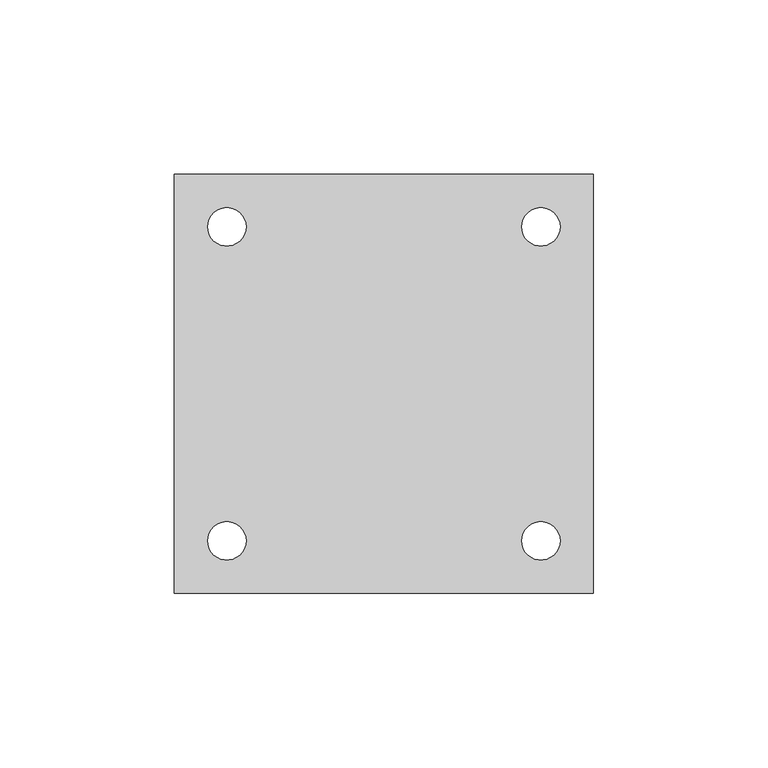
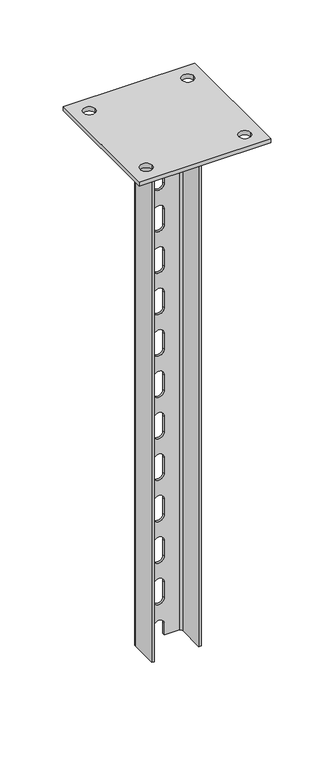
"""IFC4 building model written with IfcOpenShell, lengths in millimetres: proxy geometry, КМ Профиль_Стойка потолочная усиленная PSTU : PSTU500."""

import ifcopenshell
import ifcopenshell.guid

model = None  # the IFC model being written
_history = None  # IfcOwnerHistory: only IFC2X3 demands one
_inside = {}  # id of a spatial element -> (the spatial element, [elements in it])
_under = {}  # id of a project, library or spatial element -> (it, [spatial elements below it])
_declared = {}  # id of a project -> (the project, [libraries it declares])
_typed = {}  # id of a type object -> (the type object, [elements of that type])
_made_of = {}  # id of a material, layer set ... -> (it, [elements and type objects made of it])


def new_model(schema):
    """Start an empty IFC model of exactly this schema.

    Asked for "IFC4X3", IfcOpenShell would pick the latest addendum, in which some entities
    have other attributes; the version numbers below select the first issue.
    IFC2X3 requires an IfcOwnerHistory on every rooted entity: one is made here for all.
    """
    global model, _history
    if schema == "IFC4X3":
        model = ifcopenshell.file(schema_version=(4, 3, 0, 0))
    else:
        model = ifcopenshell.file(schema=schema)
    _inside.clear()
    _under.clear()
    _declared.clear()
    _typed.clear()
    _made_of.clear()
    _history = None
    if model.schema == "IFC2X3":
        org = make("IfcOrganization", Name="unknown")
        user = make(
            "IfcPersonAndOrganization",
            ThePerson=make("IfcPerson", FamilyName="unknown"),
            TheOrganization=org,
        )
        app = make(
            "IfcApplication",
            ApplicationDeveloper=org,
            Version="unknown",
            ApplicationFullName="unknown",
            ApplicationIdentifier="unknown",
        )
        _history = make(
            "IfcOwnerHistory",
            OwningUser=user,
            OwningApplication=app,
            ChangeAction="ADDED",
            CreationDate=0,
        )
    return model


def make(cls, **values):
    """One entity of the class cls with the attributes given. An attribute that is None is left unset."""
    return model.create_entity(
        cls, **{name: value for name, value in values.items() if value is not None}
    )


def rooted(cls, **values):
    """An entity with a GlobalId (a new one), such as an element, a storey or a relation."""
    return make(cls, GlobalId=ifcopenshell.guid.new(), OwnerHistory=_history, **values)


def si_unit(unit_type, name, prefix=None):
    """IfcSIUnit, for example si_unit("LENGTHUNIT", "METRE", prefix="MILLI")."""
    return make("IfcSIUnit", UnitType=unit_type, Prefix=prefix, Name=name)


def assignment(units):
    """IfcUnitAssignment: the units of a project."""
    return None if units is None else make("IfcUnitAssignment", Units=units)


def point(xyz):
    """IfcCartesianPoint."""
    return None if xyz is None else make("IfcCartesianPoint", Coordinates=xyz)


def direction(xyz):
    """IfcDirection."""
    return None if xyz is None else make("IfcDirection", DirectionRatios=xyz)


def frame(location, z_axis=None, x_axis=None):
    """IfcAxis2Placement3D, a coordinate frame: its origin and axes. An axis left out is left unset."""
    return make(
        "IfcAxis2Placement3D",
        Location=point(location),
        Axis=direction(z_axis),
        RefDirection=direction(x_axis),
    )


def frame_2d(location, x_axis=None):
    """IfcAxis2Placement2D, a coordinate frame in the plane: its origin and x axis."""
    return make(
        "IfcAxis2Placement2D", Location=point(location), RefDirection=direction(x_axis)
    )


def origin():
    """The frame at (0, 0, 0) with its axes left unset."""
    return frame((0.0, 0.0, 0.0))


def place(relative_to, where):
    """IfcLocalPlacement: puts the frame where relative to a parent placement (None: the world)."""
    return make(
        "IfcLocalPlacement", PlacementRelTo=relative_to, RelativePlacement=where
    )


def context(
    kind, dimensions, precision=None, world=None, true_north=None, identifier=None
):
    """IfcGeometricRepresentationContext, for example the 3D "Model" context."""
    return make(
        "IfcGeometricRepresentationContext",
        ContextIdentifier=identifier,
        ContextType=kind,
        CoordinateSpaceDimension=dimensions,
        Precision=precision,
        WorldCoordinateSystem=world,
        TrueNorth=true_north,
    )


def project(units=None, contexts=None):
    """IfcProject with its units and contexts."""
    return rooted(
        "IfcProject",
        Name="project",
        RepresentationContexts=contexts,
        UnitsInContext=assignment(units),
    )


def spatial(cls, under=None, at=None, **own):
    """A site, building, storey or space (cls), placed at a placement, below another one or the project."""
    s = rooted(cls, ObjectPlacement=at, **own)
    if under is not None:
        _under.setdefault(under.id(), (under, []))[1].append(s)
    return s


def polyline(points):
    """IfcPolyline through the points."""
    return make("IfcPolyline", Points=[point(p) for p in points])


def circle_curve(where, radius):
    """IfcCircle in the frame where."""
    return make("IfcCircle", Position=where, Radius=radius)


def trimmed(basis, trim1, trim2, sense, master):
    """IfcTrimmedCurve: the piece of a basis curve between two trims."""
    return make(
        "IfcTrimmedCurve",
        BasisCurve=basis,
        Trim1=trim1,
        Trim2=trim2,
        SenseAgreement=sense,
        MasterRepresentation=master,
    )


def segment(curve, same_sense, transition):
    """IfcCompositeCurveSegment."""
    return make(
        "IfcCompositeCurveSegment",
        Transition=transition,
        SameSense=same_sense,
        ParentCurve=curve,
    )


def composite_curve(segments, self_intersect=None):
    """IfcCompositeCurve: segments joined end to end."""
    return make("IfcCompositeCurve", Segments=segments, SelfIntersect=self_intersect)


def outline(outer, holes=None, kind="AREA"):
    """IfcArbitraryClosedProfileDef: a profile drawn as a closed curve; with holes, ...WithVoids."""
    if holes is None:
        return make("IfcArbitraryClosedProfileDef", ProfileType=kind, OuterCurve=outer)
    return make(
        "IfcArbitraryProfileDefWithVoids",
        ProfileType=kind,
        OuterCurve=outer,
        InnerCurves=holes,
    )


def extrude(swept, where, along, depth):
    """IfcExtrudedAreaSolid: the profile swept, set in the frame where, extruded along a direction by depth."""
    return make(
        "IfcExtrudedAreaSolid",
        SweptArea=swept,
        Position=where,
        ExtrudedDirection=direction(along),
        Depth=depth,
    )


def shape(context_of_items, identifier, shape_type, items):
    """IfcShapeRepresentation: the items that make up one representation, for example the "Body"."""
    return make(
        "IfcShapeRepresentation",
        ContextOfItems=context_of_items,
        RepresentationIdentifier=identifier,
        RepresentationType=shape_type,
        Items=items,
    )


def source(mapping_origin, context_of_items, identifier, shape_type, items):
    """IfcRepresentationMap: a shape defined once, which mapped items show again and again."""
    return make(
        "IfcRepresentationMap",
        MappingOrigin=mapping_origin,
        MappedRepresentation=shape(context_of_items, identifier, shape_type, items),
    )


def transform(
    local_origin,
    x_axis=None,
    y_axis=None,
    z_axis=None,
    scale=None,
    scale2=None,
    scale3=None,
    uniform=True,
):
    """IfcCartesianTransformationOperator3D, or its non-uniform kind. x_axis, y_axis, z_axis: its Axis1, 2, 3."""
    if uniform:
        return make(
            "IfcCartesianTransformationOperator3D",
            Axis1=direction(x_axis),
            Axis2=direction(y_axis),
            LocalOrigin=point(local_origin),
            Scale=scale,
            Axis3=direction(z_axis),
        )
    return make(
        "IfcCartesianTransformationOperator3DnonUniform",
        Axis1=direction(x_axis),
        Axis2=direction(y_axis),
        LocalOrigin=point(local_origin),
        Scale=scale,
        Axis3=direction(z_axis),
        Scale2=scale2,
        Scale3=scale3,
    )


def mapped(mapping_source, mapping_target):
    """IfcMappedItem: shows the shape of a source again, moved by a transform."""
    return make(
        "IfcMappedItem", MappingSource=mapping_source, MappingTarget=mapping_target
    )


def made_of(thing, what):
    """Note that an element or type object is made of a material, layer set ...; save() writes the relation."""
    if what is not None:
        _made_of.setdefault(what.id(), (what, []))[1].append(thing)
    return thing


def element(
    cls,
    number,
    at=None,
    inside=None,
    cuts=None,
    type_object=None,
    material=None,
    context=None,
    identifier="Body",
    shape_type=None,
    held_by="IfcProductDefinitionShape",
    body=None,
    shapes=None,
    **own,
):
    """One element of the class cls, such as IfcWall. Its Tag is "e" and its number.

    at: its placement. inside: the storey or other place that contains it. cuts: it is an
    opening in that element (IfcRelVoidsElement). A single representation is given by context,
    identifier, shape_type and body (its items); several are given by shapes. held_by: the class
    of the entity that holds the representations. save() writes the other relations.
    """
    e = rooted(cls, Tag="e%d" % number, ObjectPlacement=at, **own)
    if body is not None:
        shapes = [shape(context, identifier, shape_type, body)]
    if shapes is not None:
        e.Representation = make(held_by, Representations=shapes)
    if inside is not None:
        _inside.setdefault(inside.id(), (inside, []))[1].append(e)
    if cuts is not None:
        rooted(
            "IfcRelVoidsElement", RelatingBuildingElement=cuts, RelatedOpeningElement=e
        )
    if type_object is not None:
        _typed.setdefault(type_object.id(), (type_object, []))[1].append(e)
    return made_of(e, material)


def aggregate(whole, parts):
    """IfcRelAggregates: a whole, such as a stair, and the parts it consists of."""
    return rooted("IfcRelAggregates", RelatingObject=whole, RelatedObjects=parts)


def save(model, path):
    """Write the relations noted so far, then the file.

    IfcRelAggregates (storeys below a building ...), IfcRelContainedInSpatialStructure (elements
    in a storey), IfcRelDefinesByType, IfcRelAssociatesMaterial and IfcRelDeclares: one each for
    every whole, place, type object, material and project.
    """
    for whole, parts in _under.values():
        aggregate(whole, parts)
    for where, things in _inside.values():
        rooted(
            "IfcRelContainedInSpatialStructure",
            RelatedElements=things,
            RelatingStructure=where,
        )
    for kind, things in _typed.values():
        rooted("IfcRelDefinesByType", RelatedObjects=things, RelatingType=kind)
    for what, things in _made_of.values():
        rooted("IfcRelAssociatesMaterial", RelatedObjects=things, RelatingMaterial=what)
    for by, libraries in _declared.values():
        rooted("IfcRelDeclares", RelatingContext=by, RelatedDefinitions=libraries)
    model.write(path)


def plane_surface(at):
    """IfcPlane: the flat surface through the origin of the frame at, square to its z axis."""
    return make("IfcPlane", Position=at)


def cylinder_surface(at, radius):
    """IfcCylindricalSurface: all points at the distance radius from the z axis of the frame at."""
    return make("IfcCylindricalSurface", Position=at, Radius=radius)


def revolved_surface(curve, axis_point, axis_direction):
    """IfcSurfaceOfRevolution: the curve turned about the line through axis_point along axis_direction."""
    return make(
        "IfcSurfaceOfRevolution",
        SweptCurve=make("IfcArbitraryOpenProfileDef", ProfileType="CURVE", Curve=curve),
        AxisPosition=make("IfcAxis1Placement", Location=point(axis_point), Axis=direction(axis_direction)),
    )


def advanced_brep(points, edges, surfaces, faces):
    """IfcAdvancedBrep: a solid bounded by faces that lie on surfaces and meet in shared edges.

    An edge is (start, end): straight between two places in points (the first is 0);
    or (start, end, curve); or (start, end, curve, False) where it runs against its curve.
    A face is (place in surfaces, loops), or (place, loops, False) where it looks against
    its surface's normal. A loop lists edges by number (the first is 1), with a minus sign
    where the edge is run from its end to its start. The first loop is the outer one.
    """
    corners = [point(p) for p in points]
    vertices = [make("IfcVertexPoint", VertexGeometry=c) for c in corners]
    made = []
    for start, end, *more in edges:
        made.append(
            make(
                "IfcEdgeCurve",
                EdgeStart=vertices[start],
                EdgeEnd=vertices[end],
                EdgeGeometry=more[0] if more else make("IfcPolyline", Points=[corners[start], corners[end]]),
                SameSense=more[1] if len(more) > 1 else True,
            )
        )
    hull = []
    for where, loops, *sense in faces:
        bounds = []
        for j, loop in enumerate(loops):
            ring = [make("IfcOrientedEdge", EdgeElement=made[abs(k) - 1], Orientation=k > 0) for k in loop]
            bounds.append(
                make(
                    "IfcFaceOuterBound" if j == 0 else "IfcFaceBound",
                    Bound=make("IfcEdgeLoop", EdgeList=ring),
                    Orientation=True,
                )
            )
        hull.append(make("IfcAdvancedFace", Bounds=bounds, FaceSurface=surfaces[where], SameSense=sense[0] if sense else True))
    return make("IfcAdvancedBrep", Outer=make("IfcClosedShell", CfsFaces=hull))


def generic_models_c162aa8f(model_context):
    return source(origin(), model_context, "Body", "SolidModel", [
        advanced_brep(
        [(22.5, -15.0, -4.0), (22.5, 11.0, -4.0), (18.5, 15.0, -4.0), (-18.5, 15.0, -4.0), (-22.5, 11.0, -4.0), (-22.5, -15.0, -4.0), (-20.5, -15.0, -4.0), (-20.5, 11.0, -4.0), (-18.5, 13.0, -4.0), (18.5, 13.0, -4.0), (20.5, 11.0, -4.0), (20.5, -15.0, -4.0), (22.5, 11.0, -504.0), (22.5, -15.0, -504.0), (20.5, -15.0, -504.0), (20.5, 11.0, -504.0), (18.5, 13.0, -504.0), (5.0, 13.0, -504.0), (5.0, 15.0, -504.0), (18.5, 15.0, -504.0), (-22.5, 11.0, -504.0), (-18.5, 15.0, -504.0), (-5.0, 15.0, -504.0), (-5.0, 13.0, -504.0), (-18.5, 13.0, -504.0), (-20.5, 11.0, -504.0), (-20.5, -15.0, -504.0), (-22.5, -15.0, -504.0), (5.0, 15.0, -493.0), (-5.0, 15.0, -493.0), (-5.0, 15.0, -53.0), (-5.0, 15.0, -68.0), (5.0, 15.0, -68.0), (5.0, 15.0, -53.0), (-5.0, 15.0, -93.0), (-5.0, 15.0, -108.0), (5.0, 15.0, -108.0), (5.0, 15.0, -93.0), (-5.0, 15.0, -133.0), (-5.0, 15.0, -148.0), (5.0, 15.0, -148.0), (5.0, 15.0, -133.0), (-5.0, 15.0, -173.0), (-5.0, 15.0, -188.0), (5.0, 15.0, -188.0), (5.0, 15.0, -173.0), (-5.0, 15.0, -213.0), (-5.0, 15.0, -228.0), (5.0, 15.0, -228.0), (5.0, 15.0, -213.0), (-5.0, 15.0, -253.0), (-5.0, 15.0, -268.0), (5.0, 15.0, -268.0), (5.0, 15.0, -253.0), (-5.0, 15.0, -293.0), (-5.0, 15.0, -308.0), (5.0, 15.0, -308.0), (5.0, 15.0, -293.0), (-5.0, 15.0, -333.0), (-5.0, 15.0, -348.0), (5.0, 15.0, -348.0), (5.0, 15.0, -333.0), (-5.0, 15.0, -373.0), (-5.0, 15.0, -388.0), (5.0, 15.0, -388.0), (5.0, 15.0, -373.0), (-5.0, 15.0, -413.0), (-5.0, 15.0, -428.0), (5.0, 15.0, -428.0), (5.0, 15.0, -413.0), (-5.0, 15.0, -453.0), (-5.0, 15.0, -468.0), (5.0, 15.0, -468.0), (5.0, 15.0, -453.0), (-5.0, 15.0, -13.0), (-5.0, 15.0, -28.0), (5.0, 15.0, -28.0), (5.0, 15.0, -13.0), (-5.0, 13.0, -493.0), (5.0, 13.0, -493.0), (-5.0, 13.0, -68.0), (-5.0, 13.0, -53.0), (5.0, 13.0, -53.0), (5.0, 13.0, -68.0), (-5.0, 13.0, -108.0), (-5.0, 13.0, -93.0), (5.0, 13.0, -93.0), (5.0, 13.0, -108.0), (-5.0, 13.0, -148.0), (-5.0, 13.0, -133.0), (5.0, 13.0, -133.0), (5.0, 13.0, -148.0), (-5.0, 13.0, -188.0), (-5.0, 13.0, -173.0), (5.0, 13.0, -173.0), (5.0, 13.0, -188.0), (-5.0, 13.0, -228.0), (-5.0, 13.0, -213.0), (5.0, 13.0, -213.0), (5.0, 13.0, -228.0), (-5.0, 13.0, -268.0), (-5.0, 13.0, -253.0), (5.0, 13.0, -253.0), (5.0, 13.0, -268.0), (-5.0, 13.0, -308.0), (-5.0, 13.0, -293.0), (5.0, 13.0, -293.0), (5.0, 13.0, -308.0), (-5.0, 13.0, -348.0), (-5.0, 13.0, -333.0), (5.0, 13.0, -333.0), (5.0, 13.0, -348.0), (-5.0, 13.0, -388.0), (-5.0, 13.0, -373.0), (5.0, 13.0, -373.0), (5.0, 13.0, -388.0), (-5.0, 13.0, -428.0), (-5.0, 13.0, -413.0), (5.0, 13.0, -413.0), (5.0, 13.0, -428.0), (-5.0, 13.0, -468.0), (-5.0, 13.0, -453.0), (5.0, 13.0, -453.0), (5.0, 13.0, -468.0), (-5.0, 13.0, -28.0), (-5.0, 13.0, -13.0), (5.0, 13.0, -13.0), (5.0, 13.0, -28.0)],
        [
            (0, 1),
            (1, 2, circle_curve(frame((18.5, 11.0, -4.0), z_axis=(0.0, 0.0, 1.0), x_axis=(1.0, 0.0, 0.0)), 4.0)),
            (2, 3),
            (3, 4, circle_curve(frame((-18.5, 11.0, -4.0), z_axis=(0.0, 0.0, 1.0), x_axis=(1.0, 0.0, 0.0)), 4.0)),
            (4, 5),
            (5, 6),
            (6, 7),
            (7, 8, circle_curve(frame((-18.5, 11.0, -4.0), z_axis=(0.0, 0.0, -1.0), x_axis=(1.0, 0.0, 0.0)), 2.0)),
            (8, 9),
            (9, 10, circle_curve(frame((18.5, 11.0, -4.0), z_axis=(0.0, 0.0, -1.0), x_axis=(1.0, 0.0, 0.0)), 2.0)),
            (10, 11),
            (11, 0),
            (12, 13),
            (13, 14),
            (14, 15),
            (15, 16, circle_curve(frame((18.5, 11.0, -504.0), z_axis=(0.0, 0.0, 1.0), x_axis=(1.0, 0.0, 0.0)), 2.0)),
            (16, 17),
            (17, 18),
            (18, 19),
            (19, 12, circle_curve(frame((18.5, 11.0, -504.0), z_axis=(0.0, 0.0, -1.0), x_axis=(1.0, 0.0, 0.0)), 4.0)),
            (20, 21, circle_curve(frame((-18.5, 11.0, -504.0), z_axis=(0.0, 0.0, -1.0), x_axis=(1.0, 0.0, 0.0)), 4.0)),
            (21, 22),
            (22, 23),
            (23, 24),
            (24, 25, circle_curve(frame((-18.5, 11.0, -504.0), z_axis=(0.0, 0.0, 1.0), x_axis=(1.0, 0.0, 0.0)), 2.0)),
            (25, 26),
            (26, 27),
            (27, 20),
            (0, 13),
            (12, 1),
            (19, 2),
            (18, 28),
            (28, 29, circle_curve(frame((0.0, 15.0, -493.0), z_axis=(0.0, -1.0, 0.0), x_axis=(0.0, 0.0, -1.0)), 5.0)),
            (29, 22),
            (21, 3),
            (30, 31),
            (31, 32, circle_curve(frame((0.0, 15.0, -68.0), z_axis=(0.0, -1.0, 0.0), x_axis=(0.0, 0.0, -1.0)), 5.0)),
            (32, 33),
            (33, 30, circle_curve(frame((0.0, 15.0, -53.0), z_axis=(0.0, -1.0, 0.0), x_axis=(0.0, 0.0, -1.0)), 5.0)),
            (34, 35),
            (35, 36, circle_curve(frame((0.0, 15.0, -108.0), z_axis=(0.0, -1.0, 0.0), x_axis=(0.0, 0.0, -1.0)), 5.0)),
            (36, 37),
            (37, 34, circle_curve(frame((0.0, 15.0, -93.0), z_axis=(0.0, -1.0, 0.0), x_axis=(0.0, 0.0, -1.0)), 5.0)),
            (38, 39),
            (39, 40, circle_curve(frame((0.0, 15.0, -148.0), z_axis=(0.0, -1.0, 0.0), x_axis=(0.0, 0.0, -1.0)), 5.0)),
            (40, 41),
            (41, 38, circle_curve(frame((0.0, 15.0, -133.0), z_axis=(0.0, -1.0, 0.0), x_axis=(0.0, 0.0, -1.0)), 5.0)),
            (42, 43),
            (43, 44, circle_curve(frame((0.0, 15.0, -188.0), z_axis=(0.0, -1.0, 0.0), x_axis=(0.0, 0.0, -1.0)), 5.0)),
            (44, 45),
            (45, 42, circle_curve(frame((0.0, 15.0, -173.0), z_axis=(0.0, -1.0, 0.0), x_axis=(0.0, 0.0, -1.0)), 5.0)),
            (46, 47),
            (47, 48, circle_curve(frame((0.0, 15.0, -228.0), z_axis=(0.0, -1.0, 0.0), x_axis=(0.0, 0.0, -1.0)), 5.0)),
            (48, 49),
            (49, 46, circle_curve(frame((0.0, 15.0, -213.0), z_axis=(0.0, -1.0, 0.0), x_axis=(0.0, 0.0, -1.0)), 5.0)),
            (50, 51),
            (51, 52, circle_curve(frame((0.0, 15.0, -268.0), z_axis=(0.0, -1.0, 0.0), x_axis=(0.0, 0.0, -1.0)), 5.0)),
            (52, 53),
            (53, 50, circle_curve(frame((0.0, 15.0, -253.0), z_axis=(0.0, -1.0, 0.0), x_axis=(0.0, 0.0, -1.0)), 5.0)),
            (54, 55),
            (55, 56, circle_curve(frame((0.0, 15.0, -308.0), z_axis=(0.0, -1.0, 0.0), x_axis=(0.0, 0.0, -1.0)), 5.0)),
            (56, 57),
            (57, 54, circle_curve(frame((0.0, 15.0, -293.0), z_axis=(0.0, -1.0, 0.0), x_axis=(0.0, 0.0, -1.0)), 5.0)),
            (58, 59),
            (59, 60, circle_curve(frame((0.0, 15.0, -348.0), z_axis=(0.0, -1.0, 0.0), x_axis=(0.0, 0.0, -1.0)), 5.0)),
            (60, 61),
            (61, 58, circle_curve(frame((0.0, 15.0, -333.0), z_axis=(0.0, -1.0, 0.0), x_axis=(0.0, 0.0, -1.0)), 5.0)),
            (62, 63),
            (63, 64, circle_curve(frame((0.0, 15.0, -388.0), z_axis=(0.0, -1.0, 0.0), x_axis=(0.0, 0.0, -1.0)), 5.0)),
            (64, 65),
            (65, 62, circle_curve(frame((0.0, 15.0, -373.0), z_axis=(0.0, -1.0, 0.0), x_axis=(0.0, 0.0, -1.0)), 5.0)),
            (66, 67),
            (67, 68, circle_curve(frame((0.0, 15.0, -428.0), z_axis=(0.0, -1.0, 0.0), x_axis=(0.0, 0.0, -1.0)), 5.0)),
            (68, 69),
            (69, 66, circle_curve(frame((0.0, 15.0, -413.0), z_axis=(0.0, -1.0, 0.0), x_axis=(0.0, 0.0, -1.0)), 5.0)),
            (70, 71),
            (71, 72, circle_curve(frame((0.0, 15.0, -468.0), z_axis=(0.0, -1.0, 0.0), x_axis=(0.0, 0.0, -1.0)), 5.0)),
            (72, 73),
            (73, 70, circle_curve(frame((0.0, 15.0, -453.0), z_axis=(0.0, -1.0, 0.0), x_axis=(0.0, 0.0, -1.0)), 5.0)),
            (74, 75),
            (75, 76, circle_curve(frame((0.0, 15.0, -28.0), z_axis=(0.0, -1.0, 0.0), x_axis=(0.0, 0.0, -1.0)), 5.0)),
            (76, 77),
            (77, 74, circle_curve(frame((0.0, 15.0, -13.0), z_axis=(0.0, -1.0, 0.0), x_axis=(0.0, 0.0, -1.0)), 5.0)),
            (20, 4),
            (27, 5),
            (26, 6),
            (25, 7),
            (24, 8),
            (23, 78),
            (78, 79, circle_curve(frame((0.0, 13.0, -493.0), z_axis=(0.0, 1.0, 0.0), x_axis=(0.0, 0.0, -1.0)), 5.0)),
            (79, 17),
            (16, 9),
            (80, 81),
            (81, 82, circle_curve(frame((0.0, 13.0, -53.0), z_axis=(0.0, 1.0, 0.0), x_axis=(0.0, 0.0, -1.0)), 5.0)),
            (82, 83),
            (83, 80, circle_curve(frame((0.0, 13.0, -68.0), z_axis=(0.0, 1.0, 0.0), x_axis=(0.0, 0.0, -1.0)), 5.0)),
            (84, 85),
            (85, 86, circle_curve(frame((0.0, 13.0, -93.0), z_axis=(0.0, 1.0, 0.0), x_axis=(0.0, 0.0, -1.0)), 5.0)),
            (86, 87),
            (87, 84, circle_curve(frame((0.0, 13.0, -108.0), z_axis=(0.0, 1.0, 0.0), x_axis=(0.0, 0.0, -1.0)), 5.0)),
            (88, 89),
            (89, 90, circle_curve(frame((0.0, 13.0, -133.0), z_axis=(0.0, 1.0, 0.0), x_axis=(0.0, 0.0, -1.0)), 5.0)),
            (90, 91),
            (91, 88, circle_curve(frame((0.0, 13.0, -148.0), z_axis=(0.0, 1.0, 0.0), x_axis=(0.0, 0.0, -1.0)), 5.0)),
            (92, 93),
            (93, 94, circle_curve(frame((0.0, 13.0, -173.0), z_axis=(0.0, 1.0, 0.0), x_axis=(0.0, 0.0, -1.0)), 5.0)),
            (94, 95),
            (95, 92, circle_curve(frame((0.0, 13.0, -188.0), z_axis=(0.0, 1.0, 0.0), x_axis=(0.0, 0.0, -1.0)), 5.0)),
            (96, 97),
            (97, 98, circle_curve(frame((0.0, 13.0, -213.0), z_axis=(0.0, 1.0, 0.0), x_axis=(0.0, 0.0, -1.0)), 5.0)),
            (98, 99),
            (99, 96, circle_curve(frame((0.0, 13.0, -228.0), z_axis=(0.0, 1.0, 0.0), x_axis=(0.0, 0.0, -1.0)), 5.0)),
            (100, 101),
            (101, 102, circle_curve(frame((0.0, 13.0, -253.0), z_axis=(0.0, 1.0, 0.0), x_axis=(0.0, 0.0, -1.0)), 5.0)),
            (102, 103),
            (103, 100, circle_curve(frame((0.0, 13.0, -268.0), z_axis=(0.0, 1.0, 0.0), x_axis=(0.0, 0.0, -1.0)), 5.0)),
            (104, 105),
            (105, 106, circle_curve(frame((0.0, 13.0, -293.0), z_axis=(0.0, 1.0, 0.0), x_axis=(0.0, 0.0, -1.0)), 5.0)),
            (106, 107),
            (107, 104, circle_curve(frame((0.0, 13.0, -308.0), z_axis=(0.0, 1.0, 0.0), x_axis=(0.0, 0.0, -1.0)), 5.0)),
            (108, 109),
            (109, 110, circle_curve(frame((0.0, 13.0, -333.0), z_axis=(0.0, 1.0, 0.0), x_axis=(0.0, 0.0, -1.0)), 5.0)),
            (110, 111),
            (111, 108, circle_curve(frame((0.0, 13.0, -348.0), z_axis=(0.0, 1.0, 0.0), x_axis=(0.0, 0.0, -1.0)), 5.0)),
            (112, 113),
            (113, 114, circle_curve(frame((0.0, 13.0, -373.0), z_axis=(0.0, 1.0, 0.0), x_axis=(0.0, 0.0, -1.0)), 5.0)),
            (114, 115),
            (115, 112, circle_curve(frame((0.0, 13.0, -388.0), z_axis=(0.0, 1.0, 0.0), x_axis=(0.0, 0.0, -1.0)), 5.0)),
            (116, 117),
            (117, 118, circle_curve(frame((0.0, 13.0, -413.0), z_axis=(0.0, 1.0, 0.0), x_axis=(0.0, 0.0, -1.0)), 5.0)),
            (118, 119),
            (119, 116, circle_curve(frame((0.0, 13.0, -428.0), z_axis=(0.0, 1.0, 0.0), x_axis=(0.0, 0.0, -1.0)), 5.0)),
            (120, 121),
            (121, 122, circle_curve(frame((0.0, 13.0, -453.0), z_axis=(0.0, 1.0, 0.0), x_axis=(0.0, 0.0, -1.0)), 5.0)),
            (122, 123),
            (123, 120, circle_curve(frame((0.0, 13.0, -468.0), z_axis=(0.0, 1.0, 0.0), x_axis=(0.0, 0.0, -1.0)), 5.0)),
            (124, 125),
            (125, 126, circle_curve(frame((0.0, 13.0, -13.0), z_axis=(0.0, 1.0, 0.0), x_axis=(0.0, 0.0, -1.0)), 5.0)),
            (126, 127),
            (127, 124, circle_curve(frame((0.0, 13.0, -28.0), z_axis=(0.0, 1.0, 0.0), x_axis=(0.0, 0.0, -1.0)), 5.0)),
            (15, 10),
            (14, 11),
            (30, 81),
            (80, 31),
            (33, 82),
            (32, 83),
            (34, 85),
            (84, 35),
            (37, 86),
            (36, 87),
            (38, 89),
            (88, 39),
            (41, 90),
            (40, 91),
            (42, 93),
            (92, 43),
            (45, 94),
            (44, 95),
            (46, 97),
            (96, 47),
            (49, 98),
            (48, 99),
            (50, 101),
            (100, 51),
            (53, 102),
            (52, 103),
            (54, 105),
            (104, 55),
            (57, 106),
            (56, 107),
            (58, 109),
            (108, 59),
            (61, 110),
            (60, 111),
            (62, 113),
            (112, 63),
            (65, 114),
            (64, 115),
            (66, 117),
            (116, 67),
            (69, 118),
            (68, 119),
            (70, 121),
            (120, 71),
            (73, 122),
            (72, 123),
            (29, 78),
            (28, 79),
            (74, 125),
            (124, 75),
            (77, 126),
            (76, 127),
        ],
        [
            plane_surface(frame((22.5, 11.0, -4.0), z_axis=(0.0, 0.0, 1.0), x_axis=(0.0, 1.0, 0.0))),
            plane_surface(frame((22.5, 11.0, -504.0), z_axis=(0.0, 0.0, -1.0), x_axis=(0.0, -1.0, 0.0))),
            plane_surface(frame((22.5, -15.0, -4.0), z_axis=(1.0, 0.0, 0.0), x_axis=(0.0, 0.0, -1.0))),
            cylinder_surface(frame((18.5, 11.0, -504.0), z_axis=(0.0, 0.0, 1.0), x_axis=(1.0, 0.0, 0.0)), 4.0),
            plane_surface(frame((18.5, 15.0, -4.0), z_axis=(0.0, 1.0, 0.0), x_axis=(0.0, 0.0, -1.0))),
            cylinder_surface(frame((-18.5, 11.0, -504.0), z_axis=(0.0, 0.0, 1.0), x_axis=(1.0, 0.0, 0.0)), 4.0),
            plane_surface(frame((-22.5, 11.0, -4.0), z_axis=(-1.0, 0.0, 0.0), x_axis=(0.0, 0.0, -1.0))),
            plane_surface(frame((-22.5, -15.0, -4.0), z_axis=(0.0, -1.0, 0.0), x_axis=(0.0, 0.0, -1.0))),
            plane_surface(frame((-20.5, -15.0, -4.0), z_axis=(1.0, 0.0, 0.0), x_axis=(0.0, 0.0, -1.0))),
            revolved_surface(polyline([(-16.5, 11.0, -504.0), (-16.5, 11.0, -4.0)]), (-18.5, 11.0, -504.0), (0.0, 0.0, -1.0)),
            plane_surface(frame((-18.5, 13.0, -4.0), z_axis=(0.0, -1.0, 0.0), x_axis=(0.0, 0.0, -1.0))),
            revolved_surface(polyline([(20.5, 11.0, -504.0), (20.5, 11.0, -4.0)]), (18.5, 11.0, -504.0), (0.0, 0.0, -1.0)),
            plane_surface(frame((20.5, 11.0, -4.0), z_axis=(-1.0, 0.0, 0.0), x_axis=(0.0, 0.0, -1.0))),
            plane_surface(frame((20.5, -15.0, -4.0), z_axis=(0.0, -1.0, 0.0), x_axis=(0.0, 0.0, -1.0))),
            plane_surface(frame((-5.0, 15.0, -68.0), z_axis=(1.0, 0.0, 0.0), x_axis=(0.0, -1.0, 0.0))),
            revolved_surface(polyline([(0.0, 15.0, -58.0), (0.0, 13.0, -58.0)]), (0.0, 13.0, -53.0), (0.0, 1.0, 0.0)),
            plane_surface(frame((5.0, 15.0, -53.0), z_axis=(-1.0, 0.0, 0.0), x_axis=(0.0, -1.0, 0.0))),
            revolved_surface(polyline([(0.0, 15.0, -73.0), (0.0, 13.0, -73.0)]), (0.0, 13.0, -68.0), (0.0, 1.0, 0.0)),
            plane_surface(frame((-5.0, 15.0, -108.0), z_axis=(1.0, 0.0, 0.0), x_axis=(0.0, -1.0, 0.0))),
            revolved_surface(polyline([(0.0, 15.0, -98.0), (0.0, 13.0, -98.0)]), (0.0, 13.0, -93.0), (0.0, 1.0, 0.0)),
            plane_surface(frame((5.0, 15.0, -93.0), z_axis=(-1.0, 0.0, 0.0), x_axis=(0.0, -1.0, 0.0))),
            revolved_surface(polyline([(0.0, 15.0, -113.0), (0.0, 13.0, -113.0)]), (0.0, 13.0, -108.0), (0.0, 1.0, 0.0)),
            plane_surface(frame((-5.0, 15.0, -148.0), z_axis=(1.0, 0.0, 0.0), x_axis=(0.0, -1.0, 0.0))),
            revolved_surface(polyline([(0.0, 15.0, -138.0), (0.0, 13.0, -138.0)]), (0.0, 13.0, -133.0), (0.0, 1.0, 0.0)),
            plane_surface(frame((5.0, 15.0, -133.0), z_axis=(-1.0, 0.0, 0.0), x_axis=(0.0, -1.0, 0.0))),
            revolved_surface(polyline([(0.0, 15.0, -153.0), (0.0, 13.0, -153.0)]), (0.0, 13.0, -148.0), (0.0, 1.0, 0.0)),
            plane_surface(frame((-5.0, 15.0, -188.0), z_axis=(1.0, 0.0, 0.0), x_axis=(0.0, -1.0, 0.0))),
            revolved_surface(polyline([(0.0, 15.0, -178.0), (0.0, 13.0, -178.0)]), (0.0, 13.0, -173.0), (0.0, 1.0, 0.0)),
            plane_surface(frame((5.0, 15.0, -173.0), z_axis=(-1.0, 0.0, 0.0), x_axis=(0.0, -1.0, 0.0))),
            revolved_surface(polyline([(0.0, 15.0, -193.0), (0.0, 13.0, -193.0)]), (0.0, 13.0, -188.0), (0.0, 1.0, 0.0)),
            plane_surface(frame((-5.0, 15.0, -228.0), z_axis=(1.0, 0.0, 0.0), x_axis=(0.0, -1.0, 0.0))),
            revolved_surface(polyline([(0.0, 15.0, -218.0), (0.0, 13.0, -218.0)]), (0.0, 13.0, -213.0), (0.0, 1.0, 0.0)),
            plane_surface(frame((5.0, 15.0, -213.0), z_axis=(-1.0, 0.0, 0.0), x_axis=(0.0, -1.0, 0.0))),
            revolved_surface(polyline([(0.0, 15.0, -233.0), (0.0, 13.0, -233.0)]), (0.0, 13.0, -228.0), (0.0, 1.0, 0.0)),
            plane_surface(frame((-5.0, 15.0, -268.0), z_axis=(1.0, 0.0, 0.0), x_axis=(0.0, -1.0, 0.0))),
            revolved_surface(polyline([(0.0, 15.0, -258.0), (0.0, 13.0, -258.0)]), (0.0, 13.0, -253.0), (0.0, 1.0, 0.0)),
            plane_surface(frame((5.0, 15.0, -253.0), z_axis=(-1.0, 0.0, 0.0), x_axis=(0.0, -1.0, 0.0))),
            revolved_surface(polyline([(0.0, 15.0, -273.0), (0.0, 13.0, -273.0)]), (0.0, 13.0, -268.0), (0.0, 1.0, 0.0)),
            plane_surface(frame((-5.0, 15.0, -308.0), z_axis=(1.0, 0.0, 0.0), x_axis=(0.0, -1.0, 0.0))),
            revolved_surface(polyline([(0.0, 15.0, -298.0), (0.0, 13.0, -298.0)]), (0.0, 13.0, -293.0), (0.0, 1.0, 0.0)),
            plane_surface(frame((5.0, 15.0, -293.0), z_axis=(-1.0, 0.0, 0.0), x_axis=(0.0, -1.0, 0.0))),
            revolved_surface(polyline([(0.0, 15.0, -313.0), (0.0, 13.0, -313.0)]), (0.0, 13.0, -308.0), (0.0, 1.0, 0.0)),
            plane_surface(frame((-5.0, 15.0, -348.0), z_axis=(1.0, 0.0, 0.0), x_axis=(0.0, -1.0, 0.0))),
            revolved_surface(polyline([(0.0, 15.0, -338.0), (0.0, 13.0, -338.0)]), (0.0, 13.0, -333.0), (0.0, 1.0, 0.0)),
            plane_surface(frame((5.0, 15.0, -333.0), z_axis=(-1.0, 0.0, 0.0), x_axis=(0.0, -1.0, 0.0))),
            revolved_surface(polyline([(0.0, 15.0, -353.0), (0.0, 13.0, -353.0)]), (0.0, 13.0, -348.0), (0.0, 1.0, 0.0)),
            plane_surface(frame((-5.0, 15.0, -388.0), z_axis=(1.0, 0.0, 0.0), x_axis=(0.0, -1.0, 0.0))),
            revolved_surface(polyline([(0.0, 15.0, -378.0), (0.0, 13.0, -378.0)]), (0.0, 13.0, -373.0), (0.0, 1.0, 0.0)),
            plane_surface(frame((5.0, 15.0, -373.0), z_axis=(-1.0, 0.0, 0.0), x_axis=(0.0, -1.0, 0.0))),
            revolved_surface(polyline([(0.0, 15.0, -393.0), (0.0, 13.0, -393.0)]), (0.0, 13.0, -388.0), (0.0, 1.0, 0.0)),
            plane_surface(frame((-5.0, 15.0, -428.0), z_axis=(1.0, 0.0, 0.0), x_axis=(0.0, -1.0, 0.0))),
            revolved_surface(polyline([(0.0, 15.0, -418.0), (0.0, 13.0, -418.0)]), (0.0, 13.0, -413.0), (0.0, 1.0, 0.0)),
            plane_surface(frame((5.0, 15.0, -413.0), z_axis=(-1.0, 0.0, 0.0), x_axis=(0.0, -1.0, 0.0))),
            revolved_surface(polyline([(0.0, 15.0, -433.0), (0.0, 13.0, -433.0)]), (0.0, 13.0, -428.0), (0.0, 1.0, 0.0)),
            plane_surface(frame((-5.0, 15.0, -468.0), z_axis=(1.0, 0.0, 0.0), x_axis=(0.0, -1.0, 0.0))),
            revolved_surface(polyline([(0.0, 15.0, -458.0), (0.0, 13.0, -458.0)]), (0.0, 13.0, -453.0), (0.0, 1.0, 0.0)),
            plane_surface(frame((5.0, 15.0, -453.0), z_axis=(-1.0, 0.0, 0.0), x_axis=(0.0, -1.0, 0.0))),
            revolved_surface(polyline([(0.0, 15.0, -473.0), (0.0, 13.0, -473.0)]), (0.0, 13.0, -468.0), (0.0, 1.0, 0.0)),
            plane_surface(frame((-5.0, 15.0, -508.0), z_axis=(1.0, 0.0, 0.0), x_axis=(0.0, -1.0, 0.0))),
            revolved_surface(polyline([(0.0, 15.0, -498.0), (0.0, 13.0, -498.0)]), (0.0, 13.0, -493.0), (0.0, 1.0, 0.0)),
            plane_surface(frame((5.0, 15.0, -493.0), z_axis=(-1.0, 0.0, 0.0), x_axis=(0.0, -1.0, 0.0))),
            plane_surface(frame((-5.0, 15.0, -28.0), z_axis=(1.0, 0.0, 0.0), x_axis=(0.0, -1.0, 0.0))),
            revolved_surface(polyline([(0.0, 15.0, -18.0), (0.0, 13.0, -18.0)]), (0.0, 13.0, -13.0), (0.0, 1.0, 0.0)),
            plane_surface(frame((5.0, 15.0, -13.0), z_axis=(-1.0, 0.0, 0.0), x_axis=(0.0, -1.0, 0.0))),
            revolved_surface(polyline([(0.0, 15.0, -33.0), (0.0, 13.0, -33.0)]), (0.0, 13.0, -28.0), (0.0, 1.0, 0.0)),
        ],
        [
            (0, [[1, 2, 3, 4, 5, 6, 7, 8, 9, 10, 11, 12]]),
            (1, [[13, 14, 15, 16, 17, 18, 19, 20]]),
            (1, [[21, 22, 23, 24, 25, 26, 27, 28]]),
            (2, [[-1, 29, -13, 30]]),
            (3, [[-2, -30, -20, 31]]),
            (4, [[-3, -31, -19, 32, 33, 34, -22, 35], [36, 37, 38, 39], [40, 41, 42, 43], [44, 45, 46, 47], [48, 49, 50, 51], [52, 53, 54, 55], [56, 57, 58, 59], [60, 61, 62, 63], [64, 65, 66, 67], [68, 69, 70, 71], [72, 73, 74, 75], [76, 77, 78, 79], [80, 81, 82, 83]]),
            (5, [[-4, -35, -21, 84]]),
            (6, [[-5, -84, -28, 85]]),
            (7, [[-6, -85, -27, 86]]),
            (8, [[-7, -86, -26, 87]]),
            (9, [[-8, -87, -25, 88]]),
            (10, [[-9, -88, -24, 89, 90, 91, -17, 92], [93, 94, 95, 96], [97, 98, 99, 100], [101, 102, 103, 104], [105, 106, 107, 108], [109, 110, 111, 112], [113, 114, 115, 116], [117, 118, 119, 120], [121, 122, 123, 124], [125, 126, 127, 128], [129, 130, 131, 132], [133, 134, 135, 136], [137, 138, 139, 140]]),
            (11, [[-10, -92, -16, 141]]),
            (12, [[-11, -141, -15, 142]]),
            (13, [[-12, -142, -14, -29]]),
            (14, [[143, -93, 144, -36]]),
            (15, [[-143, -39, 145, -94]]),
            (16, [[-145, -38, 146, -95]]),
            (17, [[-144, -96, -146, -37]]),
            (18, [[147, -97, 148, -40]]),
            (19, [[-147, -43, 149, -98]]),
            (20, [[-149, -42, 150, -99]]),
            (21, [[-148, -100, -150, -41]]),
            (22, [[151, -101, 152, -44]]),
            (23, [[-151, -47, 153, -102]]),
            (24, [[-153, -46, 154, -103]]),
            (25, [[-152, -104, -154, -45]]),
            (26, [[155, -105, 156, -48]]),
            (27, [[-155, -51, 157, -106]]),
            (28, [[-157, -50, 158, -107]]),
            (29, [[-156, -108, -158, -49]]),
            (30, [[159, -109, 160, -52]]),
            (31, [[-159, -55, 161, -110]]),
            (32, [[-161, -54, 162, -111]]),
            (33, [[-160, -112, -162, -53]]),
            (34, [[163, -113, 164, -56]]),
            (35, [[-163, -59, 165, -114]]),
            (36, [[-165, -58, 166, -115]]),
            (37, [[-164, -116, -166, -57]]),
            (38, [[167, -117, 168, -60]]),
            (39, [[-167, -63, 169, -118]]),
            (40, [[-169, -62, 170, -119]]),
            (41, [[-168, -120, -170, -61]]),
            (42, [[171, -121, 172, -64]]),
            (43, [[-171, -67, 173, -122]]),
            (44, [[-173, -66, 174, -123]]),
            (45, [[-172, -124, -174, -65]]),
            (46, [[175, -125, 176, -68]]),
            (47, [[-175, -71, 177, -126]]),
            (48, [[-177, -70, 178, -127]]),
            (49, [[-176, -128, -178, -69]]),
            (50, [[179, -129, 180, -72]]),
            (51, [[-179, -75, 181, -130]]),
            (52, [[-181, -74, 182, -131]]),
            (53, [[-180, -132, -182, -73]]),
            (54, [[183, -133, 184, -76]]),
            (55, [[-183, -79, 185, -134]]),
            (56, [[-185, -78, 186, -135]]),
            (57, [[-184, -136, -186, -77]]),
            (58, [[187, -89, -23, -34]]),
            (59, [[-187, -33, 188, -90]]),
            (60, [[-188, -32, -18, -91]]),
            (61, [[189, -137, 190, -80]]),
            (62, [[-189, -83, 191, -138]]),
            (63, [[-191, -82, 192, -139]]),
            (64, [[-190, -140, -192, -81]]),
        ],
    ),
        extrude(outline(polyline([(-60.0, 60.0), (60.0, 60.0), (60.0, -60.0), (-60.0, -60.0), (-60.0, 60.0)]), holes=[composite_curve([segment(trimmed(circle_curve(frame_2d((-45.0, 45.0)), 5.5), [point((-50.5, 45.0))], [point((-39.5, 45.0))], True, "CARTESIAN"), True, "CONTINUOUS"), segment(trimmed(circle_curve(frame_2d((-45.0, 45.0)), 5.5), [point((-39.5, 45.0))], [point((-50.5, 45.0))], True, "CARTESIAN"), True, "CONTINUOUS")], self_intersect=False), composite_curve([segment(trimmed(circle_curve(frame_2d((45.0, 45.0)), 5.5), [point((39.5, 45.0))], [point((50.5, 45.0))], True, "CARTESIAN"), True, "CONTINUOUS"), segment(trimmed(circle_curve(frame_2d((45.0, 45.0)), 5.5), [point((50.5, 45.0))], [point((39.5, 45.0))], True, "CARTESIAN"), True, "CONTINUOUS")], self_intersect=False), composite_curve([segment(trimmed(circle_curve(frame_2d((45.0, -45.0)), 5.5), [point((39.5, -45.0))], [point((50.5, -45.0))], True, "CARTESIAN"), True, "CONTINUOUS"), segment(trimmed(circle_curve(frame_2d((45.0, -45.0)), 5.5), [point((50.5, -45.0))], [point((39.5, -45.0))], True, "CARTESIAN"), True, "CONTINUOUS")], self_intersect=False), composite_curve([segment(trimmed(circle_curve(frame_2d((-45.0, -45.0)), 5.5), [point((-50.5, -45.0))], [point((-39.5, -45.0))], True, "CARTESIAN"), True, "CONTINUOUS"), segment(trimmed(circle_curve(frame_2d((-45.0, -45.0)), 5.5), [point((-39.5, -45.0))], [point((-50.5, -45.0))], True, "CARTESIAN"), True, "CONTINUOUS")], self_intersect=False)]), frame((0.0, 0.0, -4.0), z_axis=(0.0, 0.0, 1.0), x_axis=(1.0, 0.0, 0.0)), (0.0, 0.0, 1.0), 4.0),
    ])


if __name__ == "__main__":
    model = new_model("IFC4")
    model_context = context("Model", 3, world=origin())
    ifc_project = project(units=[si_unit("LENGTHUNIT", "METRE", prefix="MILLI")], contexts=[model_context])
    site = spatial("IfcSite", under=ifc_project)
    building = spatial("IfcBuilding", under=site)
    placement = place(None, origin())
    generic_models_shape = generic_models_c162aa8f(model_context)
    element("IfcBuildingElementProxy", 1, Name="КМ Профиль_Стойка потолочная усиленная PSTU : PSTU500", ObjectType="КМ Профиль_Стойка потолочная усиленная PSTU : PSTU500", at=placement, inside=building, context=model_context, shape_type="MappedRepresentation", body=[
        mapped(generic_models_shape, transform((0.0, 0.0, 0.0), x_axis=(1.0, 0.0, 0.0), y_axis=(0.0, 1.0, 0.0), z_axis=(0.0, 0.0, 1.0))),
    ])
    save(model, "model.ifc")
